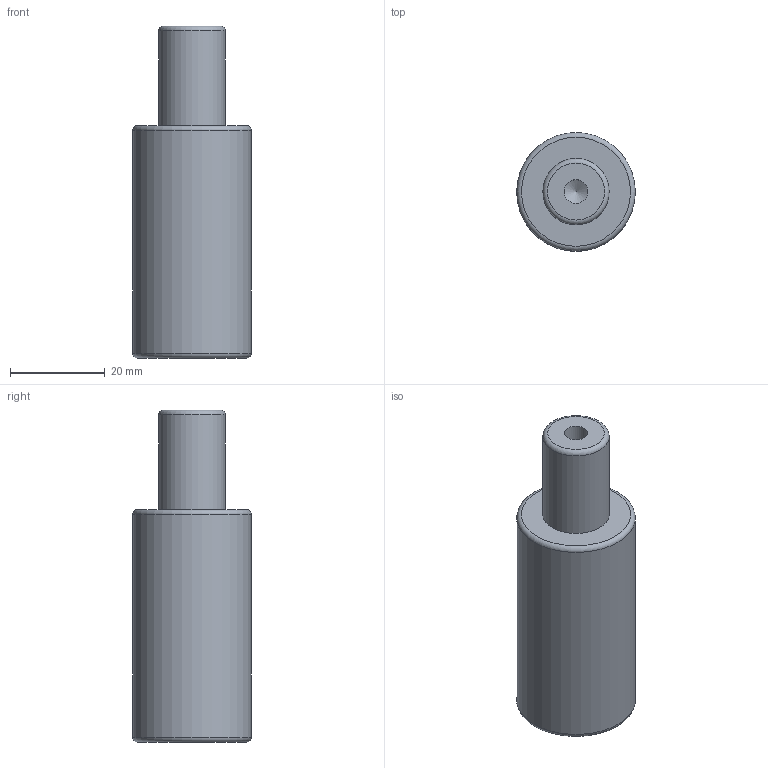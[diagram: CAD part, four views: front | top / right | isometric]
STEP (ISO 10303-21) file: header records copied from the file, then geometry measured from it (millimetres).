
FILE_DESCRIPTION(/* description */ (''),/* implementation_level */ '2;1');
FILE_NAME(/* name */ 'NV5-SMLX.25x20.stp',/* time_stamp */ '2018-08-31T16:08:38+02:00',/* author */ (''),/* organization */ (''),/* preprocessor_version */ 'ST-DEVELOPER v16',/* originating_system */ 'SIEMENS PLM Software NX 10.0',/* authorisation */ '');
FILE_SCHEMA (('AUTOMOTIVE_DESIGN { 1 0 10303 214 3 1 1 1 }'));
Length unit declared in the file: millimetre
Products named in the file (1): NV5-SMLX.25x20
Bounding box: 25 x 25 x 70 mm (x, y, z)
Volume: 26791.6 mm3; surface area: 6018.3 mm2
Topology: 1 solids, 1 shells, 12 faces, 24 edges, 15 vertices
Faces by surface type: cylinder 4, torus 3, plane 3, cone 2
Full cylindrical faces by diameter (mm): 5 x2, 14 x1, 25 x1
Entity records: 266 total; most frequent: DIRECTION 48, CARTESIAN_POINT 37, FACE_BOUND 24, AXIS2_PLACEMENT_3D 24, EDGE_LOOP 22, ORIENTED_EDGE 22, VERTEX_POINT 13, ADVANCED_FACE 12
